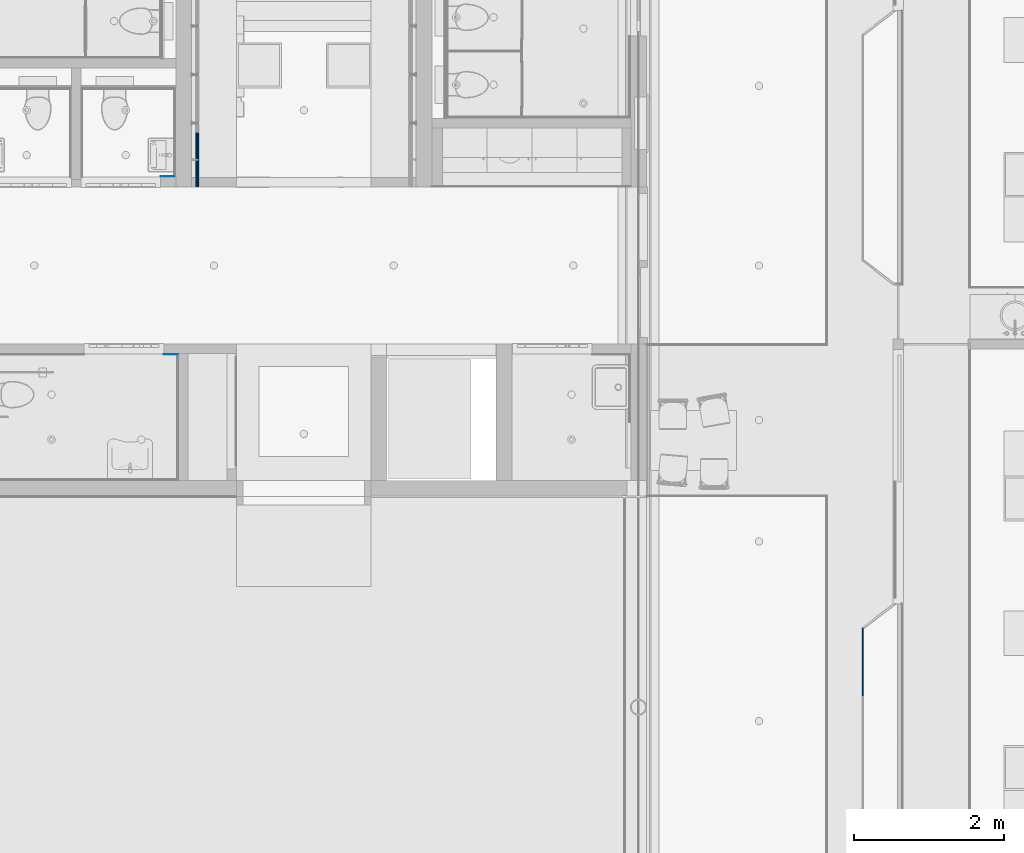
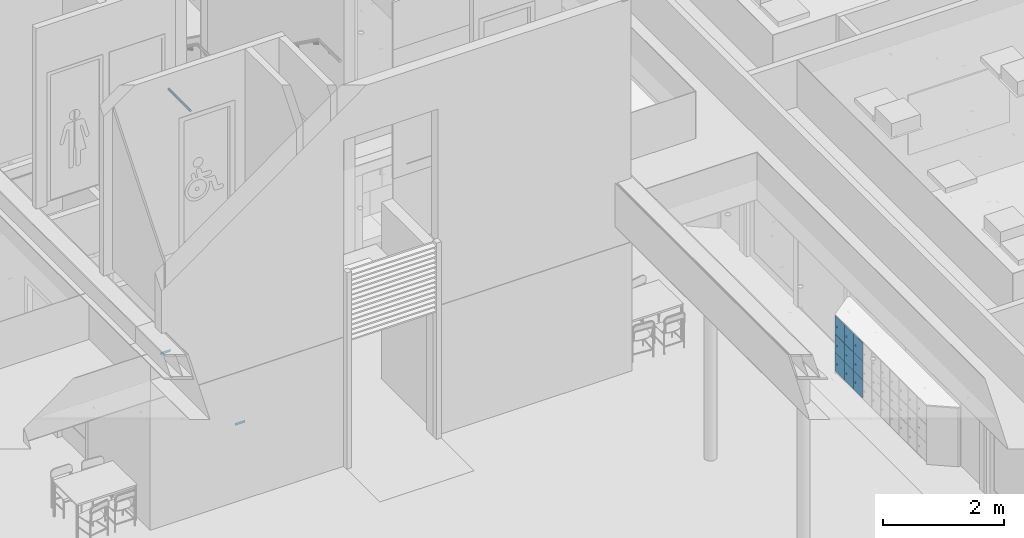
# One storey, part 137 of 347: 12 building element parts, 5 elements without a shape of their own.
"""IFC2X3 building model written with IfcOpenShell, lengths in millimetres."""

from ifc_helpers import new_model, entity, si_unit, converted_unit, derived_unit, money_unit, direction, frame, origin_with_axes, place, context, subcontext, project, spatial, faceted_brep, material, type_object, element, aggregate, save


model = new_model("IFC2X3")

# Units and contexts
model_context = context("Model", 3, precision=0.01, world=origin_with_axes(), true_north=direction((0.0, 1.0)))
plan_context = context("Plan", 3, precision=0.01, world=origin_with_axes(), true_north=direction((0.0, 1.0)))
body_context = subcontext(model_context, "Body", "Model", "MODEL_VIEW")
ifc_project = project(units=[si_unit("LENGTHUNIT", "METRE", prefix="MILLI"), si_unit("AREAUNIT", "SQUARE_METRE"), si_unit("VOLUMEUNIT", "CUBIC_METRE"), converted_unit("PLANEANGLEUNIT", "DEGREE", entity("IfcPlaneAngleMeasure", 0.0174532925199), si_unit("PLANEANGLEUNIT", "RADIAN"), dimensions=[0, 0, 0, 0, 0, 0, 0]), money_unit("EUR"), converted_unit("TIMEUNIT", "Year", entity("IfcTimeMeasure", 31556926.0), si_unit("TIMEUNIT", "SECOND"), dimensions=[0, 0, 1, 0, 0, 0, 0]), si_unit("MASSUNIT", "GRAM", prefix="KILO"), si_unit("THERMODYNAMICTEMPERATUREUNIT", "DEGREE_CELSIUS"), si_unit("LUMINOUSINTENSITYUNIT", "LUMEN"), si_unit("ENERGYUNIT", "JOULE", prefix="MEGA"), derived_unit("THERMALCONDUCTANCEUNIT", [(si_unit("POWERUNIT", "WATT"), 1), (si_unit("LENGTHUNIT", "METRE"), -1), (si_unit("THERMODYNAMICTEMPERATUREUNIT", "KELVIN"), -1)]), derived_unit("SPECIFICHEATCAPACITYUNIT", [(si_unit("ENERGYUNIT", "JOULE"), 1), (si_unit("MASSUNIT", "GRAM", prefix="KILO"), -1), (si_unit("THERMODYNAMICTEMPERATUREUNIT", "KELVIN"), -1)]), derived_unit("MASSDENSITYUNIT", [(si_unit("MASSUNIT", "GRAM", prefix="KILO"), 1), (si_unit("VOLUMEUNIT", "CUBIC_METRE"), -1)])], contexts=[model_context, plan_context])

# Site, building, storey
site_placement = place(None, origin_with_axes())
site = spatial("IfcSite", under=ifc_project, at=site_placement, Name="Site", CompositionType="ELEMENT")
building_placement = place(site_placement, origin_with_axes())
building = spatial("IfcBuilding", under=site, at=building_placement, Name="Naam gebouw", CompositionType="ELEMENT")
storey_placement = place(building_placement, origin_with_axes())
storey = spatial("IfcBuildingStorey", under=building, at=storey_placement, Name="begane grond", CompositionType="ELEMENT", Elevation=0.0)

# Railing, member, building element part
railing_type = type_object("IfcRailingType", Name="Railing Type", PredefinedType="NOTDEFINED")
railing_placement = place(storey_placement, frame((38575.0, 36499.9999823, 72.0000018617), z_axis=(0.0, 0.0, 1.0), x_axis=(-1.0, 0.0, 0.0)))
railing = element("IfcRailing", 1, at=railing_placement, inside=storey, type_object=railing_type, Name="_Reling-x", PredefinedType="NOTDEFINED")
member_type = type_object("IfcMemberType", Name="IfcMember", PredefinedType="USERDEFINED")
member_placement = place(railing_placement, frame((-75.0, 6062.50001845, 4732.0982987), z_axis=(0.0, 0.0, 1.0), x_axis=(-1.0, 0.0, 0.0)))
member = element("IfcMember", 2, at=member_placement, type_object=member_type, Name="_Handregel-x")
aggregate(railing, [member])
ifc_material_1 = material(Name="Hout AFW")
building_element_part_1_placement = place(member_placement, origin_with_axes())
building_element_part_1 = element("IfcBuildingElementPart", 3, at=building_element_part_1_placement, material=ifc_material_1, Name="Hout AFW", context=body_context, shape_type="Brep", body=[
    faceted_brep([(25.0, 354.436364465, 30.9016994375), (24.6201938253, 355.836606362, 35.2429038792), (24.6201938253, -362.500036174, 35.2429038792), (25.0, -362.500036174, 30.9016994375), (24.6201938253, 353.036122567, 26.5604949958), (23.4923155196, 351.678426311, 22.3511958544), (21.6506350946, 350.40452861, 18.4016994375), (19.151111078, 349.253136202, 14.8320091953), (16.0696902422, 348.259233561, 11.7505883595), (12.5, 347.453019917, 9.25106434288), (8.55050358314, 346.858991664, 7.40938391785), (4.34120444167, 346.495198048, 6.28150561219), (0.0, 346.372692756, 5.9016994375), (-4.34120444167, 346.495198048, 6.28150561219), (-8.55050358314, 346.858991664, 7.40938391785), (-12.5, 347.453019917, 9.25106434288), (-16.0696902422, 348.259233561, 11.7505883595), (-19.151111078, 349.253136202, 14.8320091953), (-21.6506350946, 350.40452861, 18.4016994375), (-23.4923155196, 351.678426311, 22.3511958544), (-24.6201938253, 353.036122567, 26.5604949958), (-25.0, 354.436364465, 30.9016994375), (-24.6201938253, 355.836606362, 35.2429038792), (-23.4923155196, 357.194302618, 39.4522030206), (-21.6506350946, 358.468200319, 43.4016994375), (-19.151111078, 359.619592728, 46.9713896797), (-16.0696902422, 360.613495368, 50.0528105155), (-12.5, 361.419709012, 52.5523345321), (-8.55050358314, 362.013737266, 54.3940149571), (-4.34120444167, 362.377530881, 55.5218932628), (0.0, 362.500036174, 55.9016994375), (4.34120444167, 362.377530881, 55.5218932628), (8.55050358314, 362.013737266, 54.3940149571), (12.5, 361.419709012, 52.5523345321), (16.0696902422, 360.613495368, 50.0528105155), (19.151111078, 359.619592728, 46.9713896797), (21.6506350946, 358.468200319, 43.4016994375), (23.4923155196, 357.194302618, 39.4522030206), (23.4923155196, -362.500036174, 39.4522030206), (21.6506350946, -362.500036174, 43.4016994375), (19.151111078, -362.500036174, 46.9713896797), (16.0696902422, -362.500036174, 50.0528105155), (12.5, -362.500036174, 52.5523345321), (8.55050358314, -362.500036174, 54.3940149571), (4.34120444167, -362.500036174, 55.5218932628), (0.0, -362.500036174, 55.9016994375), (-4.34120444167, -362.500036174, 55.5218932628), (-8.55050358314, -362.500036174, 54.3940149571), (-12.5, -362.500036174, 52.5523345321), (-16.0696902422, -362.500036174, 50.0528105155), (-19.151111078, -362.500036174, 46.9713896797), (-21.6506350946, -362.500036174, 43.4016994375), (-23.4923155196, -362.500036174, 39.4522030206), (-24.6201938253, -362.500036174, 35.2429038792), (-25.0, -362.500036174, 30.9016994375), (-24.6201938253, -362.500036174, 26.5604949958), (-23.4923155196, -362.500036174, 22.3511958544), (-21.6506350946, -362.500036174, 18.4016994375), (-19.151111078, -362.500036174, 14.8320091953), (-16.0696902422, -362.500036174, 11.7505883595), (-12.5, -362.500036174, 9.25106434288), (-8.55050358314, -362.500036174, 7.40938391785), (-4.34120444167, -362.500036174, 6.28150561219), (0.0, -362.500036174, 5.9016994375), (4.34120444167, -362.500036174, 6.28150561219), (8.55050358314, -362.500036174, 7.40938391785), (12.5, -362.500036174, 9.25106434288), (16.0696902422, -362.500036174, 11.7505883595), (19.151111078, -362.500036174, 14.8320091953), (21.6506350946, -362.500036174, 18.4016994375), (23.4923155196, -362.500036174, 22.3511958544), (24.6201938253, -362.500036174, 26.5604949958)], [[[0, 1, 2, 3]], [[0, 4, 5, 6, 7, 8, 9, 10, 11, 12, 13, 14, 15, 16, 17, 18, 19, 20, 21, 22, 23, 24, 25, 26, 27, 28, 29, 30, 31, 32, 33, 34, 35, 36, 37, 1]], [[1, 37, 38, 2]], [[3, 2, 38, 39, 40, 41, 42, 43, 44, 45, 46, 47, 48, 49, 50, 51, 52, 53, 54, 55, 56, 57, 58, 59, 60, 61, 62, 63, 64, 65, 66, 67, 68, 69, 70, 71]], [[4, 0, 3, 71]], [[5, 4, 71, 70]], [[6, 5, 70, 69]], [[7, 6, 69, 68]], [[8, 7, 68, 67]], [[9, 8, 67, 66]], [[10, 9, 66, 65]], [[11, 10, 65, 64]], [[12, 11, 64, 63]], [[13, 12, 63, 62]], [[14, 13, 62, 61]], [[15, 14, 61, 60]], [[16, 15, 60, 59]], [[17, 16, 59, 58]], [[18, 17, 58, 57]], [[19, 18, 57, 56]], [[20, 19, 56, 55]], [[21, 20, 55, 54]], [[22, 21, 54, 53]], [[23, 22, 53, 52]], [[24, 23, 52, 51]], [[25, 24, 51, 50]], [[26, 25, 50, 49]], [[27, 26, 49, 48]], [[28, 27, 48, 47]], [[29, 28, 47, 46]], [[30, 29, 46, 45]], [[31, 30, 45, 44]], [[32, 31, 44, 43]], [[33, 32, 43, 42]], [[34, 33, 42, 41]], [[35, 34, 41, 40]], [[36, 35, 40, 39]], [[37, 36, 39, 38]]]),
])
aggregate(member, [building_element_part_1])

# Proxy, building element part
building_element_proxy_type = type_object("IfcBuildingElementProxyType", Name="wandtegels 150x300 2600+ 10 x 2600", PredefinedType="NOTDEFINED")
proxy_1_placement = place(storey_placement, frame((38205.0000178, 27830.0, 0.0), z_axis=(0.0, 0.0, 1.0), x_axis=(1.0, 0.0, 0.0)))
proxy_1 = element("IfcBuildingElementProxy", 4, at=proxy_1_placement, inside=storey, type_object=building_element_proxy_type, Name="42_52 wandtegels keramisch")
ifc_material_2 = material(Name="48 vloeivloer Bolidt")
building_element_part_2_placement = place(proxy_1_placement, origin_with_axes())
building_element_part_2 = element("IfcBuildingElementPart", 5, at=building_element_part_2_placement, material=ifc_material_2, Name="48 vloeivloer Bolidt", context=body_context, shape_type="Brep", body=[
    faceted_brep([(187.99999707, 8.00001490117, 50.0000059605), (187.99999707, 10.0000089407, 50.0000059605), (0.0, 10.0000089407, 50.0000059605), (0.0, 8.00001490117, 50.0000059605), (187.99999707, 10.0000089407, 0.0), (187.99999707, 8.00001490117, 0.0), (0.0, 10.0000089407, 0.0), (0.0, 8.00001490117, 0.0)], [[[0, 1, 2, 3]], [[4, 1, 0, 5]], [[1, 4, 6, 2]], [[3, 2, 6, 7]], [[5, 0, 3, 7]], [[4, 5, 7, 6]]]),
])
aggregate(proxy_1, [building_element_part_2])

proxy_2_placement = place(storey_placement, frame((38161.5, 30209.9999277, 0.0), z_axis=(0.0, 0.0, 1.0), x_axis=(1.0, 0.0, 0.0)))
proxy_2 = element("IfcBuildingElementProxy", 6, at=proxy_2_placement, inside=storey, type_object=building_element_proxy_type, Name="42_48 wandtegels keramisch")
building_element_part_3_placement = place(proxy_2_placement, origin_with_axes())
building_element_part_3 = element("IfcBuildingElementPart", 7, at=building_element_part_3_placement, material=ifc_material_2, Name="48 vloeivloer Bolidt", context=body_context, shape_type="Brep", body=[
    faceted_brep([(185.49999702, 8.00001490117, 50.0000059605), (185.49999702, 10.0000089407, 50.0000059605), (0.0, 10.0000089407, 50.0000059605), (0.0, 8.00001490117, 50.0000059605), (185.49999702, 10.0000089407, 0.0), (185.49999702, 8.00001490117, 0.0), (0.0, 10.0000089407, 0.0), (0.0, 8.00001490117, 0.0)], [[[0, 1, 2, 3]], [[4, 1, 0, 5]], [[1, 4, 6, 2]], [[2, 6, 7, 3]], [[5, 0, 3, 7]], [[4, 5, 7, 6]]]),
])
aggregate(proxy_2, [building_element_part_3])

# Beam, building element parts
beam_type = type_object("IfcBeamType", Name="VI Garderobe 01 3012 x 1122", PredefinedType="BEAM")
beam_placement = place(storey_placement, frame((47531.9720234, 24180.5, 0.0), z_axis=(0.0, 0.0, 1.0), x_axis=(0.0, -1.0, 0.0)))
beam = element("IfcBeam", 8, at=beam_placement, inside=storey, type_object=beam_type, Name="28_Balk-x", ObjectType="BEAM")
ifc_material_3 = material(Name="Hout - Lockers")
building_element_part_4_placement = place(beam_placement, origin_with_axes())
building_element_part_4 = element("IfcBuildingElementPart", 9, at=building_element_part_4_placement, material=ifc_material_3, Name="Hout - Lockers", context=body_context, shape_type="Brep", body=[
    faceted_brep([(0.0, 18.0, 1175.0), (0.0, 18.0, 802.0), (0.0, 0.0, 802.0), (0.0, 0.0, 1175.0), (303.0, 18.0, 1175.0), (303.0, 18.0, 802.0), (76.2025761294, 18.0, 975.016154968), (72.7648820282, 18.0, 985.596289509), (63.7648820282, 18.0, 992.135172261), (52.6402702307, 18.0, 992.135172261), (43.6402702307, 18.0, 985.596289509), (40.2025761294, 18.0, 975.016154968), (43.6402702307, 18.0, 964.436020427), (52.6402702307, 18.0, 957.897137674), (63.7648820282, 18.0, 957.897137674), (72.7648820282, 18.0, 964.436020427), (303.0, 0.0, 802.0), (303.0, 0.0, 1175.0), (76.2025761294, 0.0, 975.016154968), (72.7648820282, 0.0, 964.436020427), (63.7648820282, 0.0, 957.897137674), (52.6402702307, 0.0, 957.897137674), (43.6402702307, 0.0, 964.436020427), (40.2025761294, 0.0, 975.016154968), (43.6402702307, 0.0, 985.596289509), (52.6402702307, 0.0, 992.135172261), (63.7648820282, 0.0, 992.135172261), (72.7648820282, 0.0, 985.596289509)], [[[0, 1, 2, 3]], [[0, 4, 5, 1], [6, 7, 8, 9, 10, 11, 12, 13, 14, 15]], [[1, 5, 16, 2]], [[3, 2, 16, 17], [18, 19, 20, 21, 22, 23, 24, 25, 26, 27]], [[4, 0, 3, 17]], [[5, 4, 17, 16]], [[7, 6, 18, 27]], [[8, 7, 27, 26]], [[9, 8, 26, 25]], [[10, 9, 25, 24]], [[11, 10, 24, 23]], [[12, 11, 23, 22]], [[13, 12, 22, 21]], [[14, 13, 21, 20]], [[15, 14, 20, 19]], [[6, 15, 19, 18]]]),
])
building_element_part_5_placement = place(beam_placement, origin_with_axes())
building_element_part_5 = element("IfcBuildingElementPart", 10, at=building_element_part_5_placement, material=ifc_material_3, Name="Hout - Lockers", context=body_context, shape_type="Brep", body=[
    faceted_brep([(0.0, 18.0, 796.0), (0.0, 18.0, 432.0), (0.0, 0.0, 432.0), (0.0, 0.0, 796.0), (303.0, 18.0, 796.0), (303.0, 18.0, 432.0), (44.5601698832, 18.0, 596.032777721), (47.9978639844, 18.0, 585.45264318), (56.9978639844, 18.0, 578.913760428), (68.1224757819, 18.0, 578.913760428), (77.1224757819, 18.0, 585.45264318), (80.5601698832, 18.0, 596.032777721), (77.1224757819, 18.0, 606.612912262), (68.1224757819, 18.0, 613.151795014), (56.9978639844, 18.0, 613.151795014), (47.9978639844, 18.0, 606.612912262), (303.0, 0.0, 432.0), (303.0, 0.0, 796.0), (44.5601698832, 0.0, 596.032777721), (47.9978639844, 0.0, 606.612912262), (56.9978639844, 0.0, 613.151795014), (68.1224757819, 0.0, 613.151795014), (77.1224757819, 0.0, 606.612912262), (80.5601698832, 0.0, 596.032777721), (77.1224757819, 0.0, 585.45264318), (68.1224757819, 0.0, 578.913760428), (56.9978639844, 0.0, 578.913760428), (47.9978639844, 0.0, 585.45264318)], [[[0, 1, 2, 3]], [[0, 4, 5, 1], [6, 7, 8, 9, 10, 11, 12, 13, 14, 15]], [[1, 5, 16, 2]], [[3, 2, 16, 17], [18, 19, 20, 21, 22, 23, 24, 25, 26, 27]], [[4, 0, 3, 17]], [[5, 4, 17, 16]], [[7, 6, 18, 27]], [[8, 7, 27, 26]], [[9, 8, 26, 25]], [[10, 9, 25, 24]], [[11, 10, 24, 23]], [[12, 11, 23, 22]], [[13, 12, 22, 21]], [[14, 13, 21, 20]], [[15, 14, 20, 19]], [[6, 15, 19, 18]]]),
])
building_element_part_6_placement = place(beam_placement, origin_with_axes())
building_element_part_6 = element("IfcBuildingElementPart", 11, at=building_element_part_6_placement, material=ifc_material_3, Name="Hout - Lockers", context=body_context, shape_type="Brep", body=[
    faceted_brep([(0.0, 18.0, 426.0), (0.0, 18.0, 53.0), (0.0, 0.0, 53.0), (0.0, 0.0, 426.0), (303.0, 18.0, 426.0), (303.0, 18.0, 53.0), (78.0, 18.0, 226.0), (74.5623058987, 18.0, 236.580134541), (65.5623058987, 18.0, 243.119017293), (54.4376941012, 18.0, 243.119017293), (45.4376941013, 18.0, 236.580134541), (42.0, 18.0, 226.0), (45.4376941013, 18.0, 215.419865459), (54.4376941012, 18.0, 208.880982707), (65.5623058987, 18.0, 208.880982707), (74.5623058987, 18.0, 215.419865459), (303.0, 0.0, 53.0), (303.0, 0.0, 426.0), (78.0, 0.0, 226.0), (74.5623058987, 0.0, 215.419865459), (65.5623058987, 0.0, 208.880982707), (54.4376941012, 0.0, 208.880982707), (45.4376941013, 0.0, 215.419865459), (42.0, 0.0, 226.0), (45.4376941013, 0.0, 236.580134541), (54.4376941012, 0.0, 243.119017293), (65.5623058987, 0.0, 243.119017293), (74.5623058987, 0.0, 236.580134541)], [[[0, 1, 2, 3]], [[0, 4, 5, 1], [6, 7, 8, 9, 10, 11, 12, 13, 14, 15]], [[1, 5, 16, 2]], [[3, 2, 16, 17], [18, 19, 20, 21, 22, 23, 24, 25, 26, 27]], [[4, 0, 3, 17]], [[5, 4, 17, 16]], [[7, 6, 18, 27]], [[8, 7, 27, 26]], [[9, 8, 26, 25]], [[10, 9, 25, 24]], [[11, 10, 24, 23]], [[12, 11, 23, 22]], [[13, 12, 22, 21]], [[14, 13, 21, 20]], [[15, 14, 20, 19]], [[6, 15, 19, 18]]]),
])
building_element_part_7_placement = place(beam_placement, origin_with_axes())
building_element_part_7 = element("IfcBuildingElementPart", 12, at=building_element_part_7_placement, material=ifc_material_3, Name="Hout - Lockers", context=body_context, shape_type="Brep", body=[
    faceted_brep([(309.0, 18.0, 1175.0), (309.0, 18.0, 802.0), (309.0, 0.0, 802.0), (309.0, 0.0, 1175.0), (603.0, 18.0, 1175.0), (603.0, 18.0, 802.0), (387.0, 18.0, 975.0), (383.562305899, 18.0, 985.580134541), (374.562305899, 18.0, 992.119017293), (363.437694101, 18.0, 992.119017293), (354.437694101, 18.0, 985.580134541), (351.0, 18.0, 975.0), (354.437694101, 18.0, 964.419865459), (363.437694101, 18.0, 957.880982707), (374.562305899, 18.0, 957.880982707), (383.562305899, 18.0, 964.419865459), (603.0, 0.0, 802.0), (603.0, 0.0, 1175.0), (387.0, 0.0, 975.0), (383.562305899, 0.0, 964.419865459), (374.562305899, 0.0, 957.880982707), (363.437694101, 0.0, 957.880982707), (354.437694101, 0.0, 964.419865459), (351.0, 0.0, 975.0), (354.437694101, 0.0, 985.580134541), (363.437694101, 0.0, 992.119017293), (374.562305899, 0.0, 992.119017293), (383.562305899, 0.0, 985.580134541)], [[[0, 1, 2, 3]], [[0, 4, 5, 1], [6, 7, 8, 9, 10, 11, 12, 13, 14, 15]], [[1, 5, 16, 2]], [[3, 2, 16, 17], [18, 19, 20, 21, 22, 23, 24, 25, 26, 27]], [[4, 0, 3, 17]], [[5, 4, 17, 16]], [[7, 6, 18, 27]], [[8, 7, 27, 26]], [[9, 8, 26, 25]], [[10, 9, 25, 24]], [[11, 10, 24, 23]], [[12, 11, 23, 22]], [[13, 12, 22, 21]], [[14, 13, 21, 20]], [[15, 14, 20, 19]], [[6, 15, 19, 18]]]),
])
building_element_part_8_placement = place(beam_placement, origin_with_axes())
building_element_part_8 = element("IfcBuildingElementPart", 13, at=building_element_part_8_placement, material=ifc_material_3, Name="Hout - Lockers", context=body_context, shape_type="Brep", body=[
    faceted_brep([(309.0, 18.0, 796.0), (309.0, 18.0, 432.0), (309.0, 0.0, 432.0), (309.0, 0.0, 796.0), (603.0, 18.0, 796.0), (603.0, 18.0, 432.0), (387.0, 18.0, 596.0), (383.562305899, 18.0, 606.580134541), (374.562305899, 18.0, 613.119017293), (363.437694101, 18.0, 613.119017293), (354.437694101, 18.0, 606.580134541), (351.0, 18.0, 596.0), (354.437694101, 18.0, 585.419865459), (363.437694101, 18.0, 578.880982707), (374.562305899, 18.0, 578.880982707), (383.562305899, 18.0, 585.419865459), (603.0, 0.0, 432.0), (603.0, 0.0, 796.0), (387.0, 0.0, 596.0), (383.562305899, 0.0, 585.419865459), (374.562305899, 0.0, 578.880982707), (363.437694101, 0.0, 578.880982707), (354.437694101, 0.0, 585.419865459), (351.0, 0.0, 596.0), (354.437694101, 0.0, 606.580134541), (363.437694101, 0.0, 613.119017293), (374.562305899, 0.0, 613.119017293), (383.562305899, 0.0, 606.580134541)], [[[0, 1, 2, 3]], [[0, 4, 5, 1], [6, 7, 8, 9, 10, 11, 12, 13, 14, 15]], [[1, 5, 16, 2]], [[3, 2, 16, 17], [18, 19, 20, 21, 22, 23, 24, 25, 26, 27]], [[4, 0, 3, 17]], [[5, 4, 17, 16]], [[7, 6, 18, 27]], [[8, 7, 27, 26]], [[9, 8, 26, 25]], [[10, 9, 25, 24]], [[11, 10, 24, 23]], [[12, 11, 23, 22]], [[13, 12, 22, 21]], [[14, 13, 21, 20]], [[15, 14, 20, 19]], [[6, 15, 19, 18]]]),
])
building_element_part_9_placement = place(beam_placement, origin_with_axes())
building_element_part_9 = element("IfcBuildingElementPart", 14, at=building_element_part_9_placement, material=ifc_material_3, Name="Hout - Lockers", context=body_context, shape_type="Brep", body=[
    faceted_brep([(309.0, 18.0, 426.0), (309.0, 18.0, 53.0), (309.0, 0.0, 53.0), (309.0, 0.0, 426.0), (603.0, 18.0, 426.0), (603.0, 18.0, 53.0), (387.0, 18.0, 226.0), (383.562305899, 18.0, 236.580134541), (374.562305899, 18.0, 243.119017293), (363.437694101, 18.0, 243.119017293), (354.437694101, 18.0, 236.580134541), (351.0, 18.0, 226.0), (354.437694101, 18.0, 215.419865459), (363.437694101, 18.0, 208.880982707), (374.562305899, 18.0, 208.880982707), (383.562305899, 18.0, 215.419865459), (603.0, 0.0, 53.0), (603.0, 0.0, 426.0), (387.0, 0.0, 226.0), (383.562305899, 0.0, 215.419865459), (374.562305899, 0.0, 208.880982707), (363.437694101, 0.0, 208.880982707), (354.437694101, 0.0, 215.419865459), (351.0, 0.0, 226.0), (354.437694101, 0.0, 236.580134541), (363.437694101, 0.0, 243.119017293), (374.562305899, 0.0, 243.119017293), (383.562305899, 0.0, 236.580134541)], [[[0, 1, 2, 3]], [[0, 4, 5, 1], [6, 7, 8, 9, 10, 11, 12, 13, 14, 15]], [[1, 5, 16, 2]], [[3, 2, 16, 17], [18, 19, 20, 21, 22, 23, 24, 25, 26, 27]], [[4, 0, 3, 17]], [[5, 4, 17, 16]], [[7, 6, 18, 27]], [[8, 7, 27, 26]], [[9, 8, 26, 25]], [[10, 9, 25, 24]], [[11, 10, 24, 23]], [[12, 11, 23, 22]], [[13, 12, 22, 21]], [[14, 13, 21, 20]], [[15, 14, 20, 19]], [[6, 15, 19, 18]]]),
])
building_element_part_10_placement = place(beam_placement, origin_with_axes())
building_element_part_10 = element("IfcBuildingElementPart", 15, at=building_element_part_10_placement, material=ifc_material_3, Name="Hout - Lockers", context=body_context, shape_type="Brep", body=[
    faceted_brep([(609.0, 18.0, 1175.0), (609.0, 18.0, 802.0), (609.0, 0.0, 802.0), (609.0, 0.0, 1175.0), (903.0, 18.0, 1175.0), (903.0, 18.0, 802.0), (687.0, 18.0, 975.0), (683.562305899, 18.0, 985.580134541), (674.562305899, 18.0, 992.119017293), (663.437694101, 18.0, 992.119017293), (654.437694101, 18.0, 985.580134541), (651.0, 18.0, 975.0), (654.437694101, 18.0, 964.419865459), (663.437694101, 18.0, 957.880982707), (674.562305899, 18.0, 957.880982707), (683.562305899, 18.0, 964.419865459), (903.0, 0.0, 802.0), (903.0, 0.0, 1175.0), (687.0, 0.0, 975.0), (683.562305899, 0.0, 964.419865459), (674.562305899, 0.0, 957.880982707), (663.437694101, 0.0, 957.880982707), (654.437694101, 0.0, 964.419865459), (651.0, 0.0, 975.0), (654.437694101, 0.0, 985.580134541), (663.437694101, 0.0, 992.119017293), (674.562305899, 0.0, 992.119017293), (683.562305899, 0.0, 985.580134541)], [[[0, 1, 2, 3]], [[0, 4, 5, 1], [6, 7, 8, 9, 10, 11, 12, 13, 14, 15]], [[1, 5, 16, 2]], [[3, 2, 16, 17], [18, 19, 20, 21, 22, 23, 24, 25, 26, 27]], [[4, 0, 3, 17]], [[5, 4, 17, 16]], [[7, 6, 18, 27]], [[8, 7, 27, 26]], [[9, 8, 26, 25]], [[10, 9, 25, 24]], [[11, 10, 24, 23]], [[12, 11, 23, 22]], [[13, 12, 22, 21]], [[14, 13, 21, 20]], [[15, 14, 20, 19]], [[6, 15, 19, 18]]]),
])
building_element_part_11_placement = place(beam_placement, origin_with_axes())
building_element_part_11 = element("IfcBuildingElementPart", 16, at=building_element_part_11_placement, material=ifc_material_3, Name="Hout - Lockers", context=body_context, shape_type="Brep", body=[
    faceted_brep([(609.0, 18.0, 796.0), (609.0, 18.0, 432.0), (609.0, 0.0, 432.0), (609.0, 0.0, 796.0), (903.0, 18.0, 796.0), (903.0, 18.0, 432.0), (687.0, 18.0, 596.0), (683.562305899, 18.0, 606.580134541), (674.562305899, 18.0, 613.119017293), (663.437694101, 18.0, 613.119017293), (654.437694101, 18.0, 606.580134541), (651.0, 18.0, 596.0), (654.437694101, 18.0, 585.419865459), (663.437694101, 18.0, 578.880982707), (674.562305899, 18.0, 578.880982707), (683.562305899, 18.0, 585.419865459), (903.0, 0.0, 432.0), (903.0, 0.0, 796.0), (687.0, 0.0, 596.0), (683.562305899, 0.0, 585.419865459), (674.562305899, 0.0, 578.880982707), (663.437694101, 0.0, 578.880982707), (654.437694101, 0.0, 585.419865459), (651.0, 0.0, 596.0), (654.437694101, 0.0, 606.580134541), (663.437694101, 0.0, 613.119017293), (674.562305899, 0.0, 613.119017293), (683.562305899, 0.0, 606.580134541)], [[[0, 1, 2, 3]], [[0, 4, 5, 1], [6, 7, 8, 9, 10, 11, 12, 13, 14, 15]], [[1, 5, 16, 2]], [[3, 2, 16, 17], [18, 19, 20, 21, 22, 23, 24, 25, 26, 27]], [[4, 0, 3, 17]], [[5, 4, 17, 16]], [[7, 6, 18, 27]], [[8, 7, 27, 26]], [[9, 8, 26, 25]], [[10, 9, 25, 24]], [[11, 10, 24, 23]], [[12, 11, 23, 22]], [[13, 12, 22, 21]], [[14, 13, 21, 20]], [[15, 14, 20, 19]], [[6, 15, 19, 18]]]),
])
building_element_part_12_placement = place(beam_placement, origin_with_axes())
building_element_part_12 = element("IfcBuildingElementPart", 17, at=building_element_part_12_placement, material=ifc_material_3, Name="Hout - Lockers", context=body_context, shape_type="Brep", body=[
    faceted_brep([(609.0, 18.0, 426.0), (609.0, 18.0, 53.0), (609.0, 0.0, 53.0), (609.0, 0.0, 426.0), (903.0, 18.0, 426.0), (903.0, 18.0, 53.0), (687.0, 18.0, 226.0), (683.562305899, 18.0, 236.580134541), (674.562305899, 18.0, 243.119017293), (663.437694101, 18.0, 243.119017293), (654.437694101, 18.0, 236.580134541), (651.0, 18.0, 226.0), (654.437694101, 18.0, 215.419865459), (663.437694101, 18.0, 208.880982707), (674.562305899, 18.0, 208.880982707), (683.562305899, 18.0, 215.419865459), (903.0, 0.0, 53.0), (903.0, 0.0, 426.0), (687.0, 0.0, 226.0), (683.562305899, 0.0, 215.419865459), (674.562305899, 0.0, 208.880982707), (663.437694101, 0.0, 208.880982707), (654.437694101, 0.0, 215.419865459), (651.0, 0.0, 226.0), (654.437694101, 0.0, 236.580134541), (663.437694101, 0.0, 243.119017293), (674.562305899, 0.0, 243.119017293), (683.562305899, 0.0, 236.580134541)], [[[0, 1, 2, 3]], [[0, 4, 5, 1], [6, 7, 8, 9, 10, 11, 12, 13, 14, 15]], [[1, 5, 16, 2]], [[3, 2, 16, 17], [18, 19, 20, 21, 22, 23, 24, 25, 26, 27]], [[4, 0, 3, 17]], [[5, 4, 17, 16]], [[7, 6, 18, 27]], [[8, 7, 27, 26]], [[9, 8, 26, 25]], [[10, 9, 25, 24]], [[11, 10, 24, 23]], [[12, 11, 23, 22]], [[13, 12, 22, 21]], [[14, 13, 21, 20]], [[15, 14, 20, 19]], [[6, 15, 19, 18]]]),
])
aggregate(beam, [building_element_part_4, building_element_part_5, building_element_part_6, building_element_part_7, building_element_part_8, building_element_part_9, building_element_part_10, building_element_part_11, building_element_part_12])

save(model, "model.ifc")
